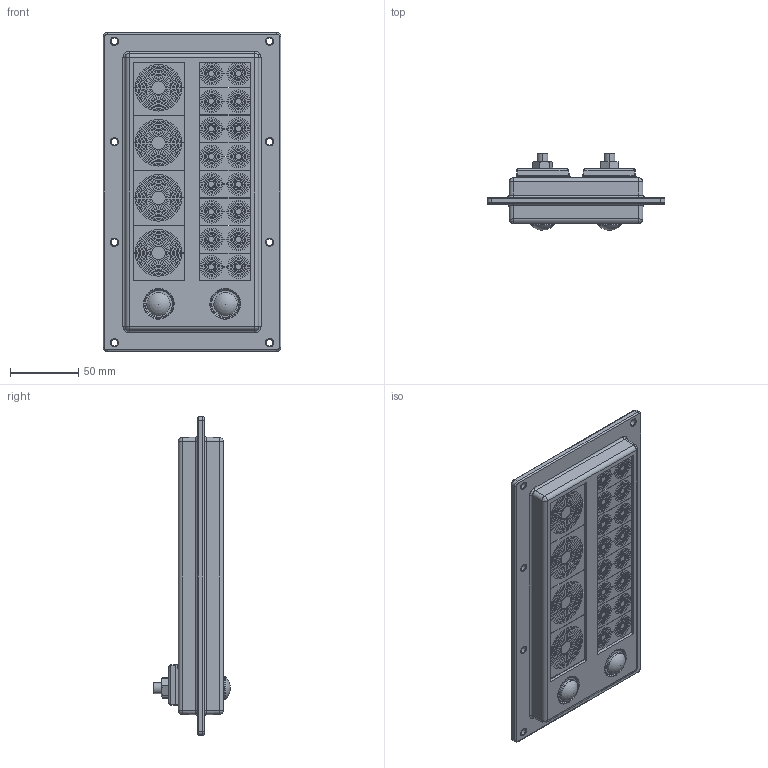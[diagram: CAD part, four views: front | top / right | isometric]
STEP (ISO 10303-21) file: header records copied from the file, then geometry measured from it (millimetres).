
FILE_DESCRIPTION (( 'STEP AP203' ), '1' );
FILE_NAME ('KML32-20.STEP', '2021-08-10T02:12:58', ( '' ), ( '' ), 'SwSTEP 2.0', 'SolidWorks 2016', '' );
FILE_SCHEMA (( 'CONFIG_CONTROL_DESIGN' ));
Length unit declared in the file: millimetre
Products named in the file (8): rubber_blk_5; RM20-40  綠30 盄噤3.5-16.5; KML32-20; cm32; 蹟簽M8; RM40 綠30 盄噤10-32; 蹟佪 M8-53; plastic_blk_2
Assembly tree (21 placements, depth 2):
  KML32-20
    cm32
    rubber_blk_5  x2
    plastic_blk_2  x2
    蹟佪 M8-53  x2
    RM20-40  綠30 盄噤3.5-16.5  x8
    RM40 綠30 盄噤10-32  x4
    蹟簽M8  x2
Bounding box: 130 x 56 x 233 mm (x, y, z)
Volume: 669950.4 mm3; surface area: 194510.2 mm2
Topology: 21 solids, 21 shells, 1792 faces, 4440 edges, 2900 vertices
Faces by surface type: cylinder 892, plane 768, bspline 98, cone 24, torus 8, sphere 2
Entity records: 20742 total; most frequent: CARTESIAN_POINT 6281, ORIENTED_EDGE 2866, DIRECTION 2719, EDGE_CURVE 1433, AXIS2_PLACEMENT_3D 1008, VERTEX_POINT 930, LINE 703, VECTOR 703
